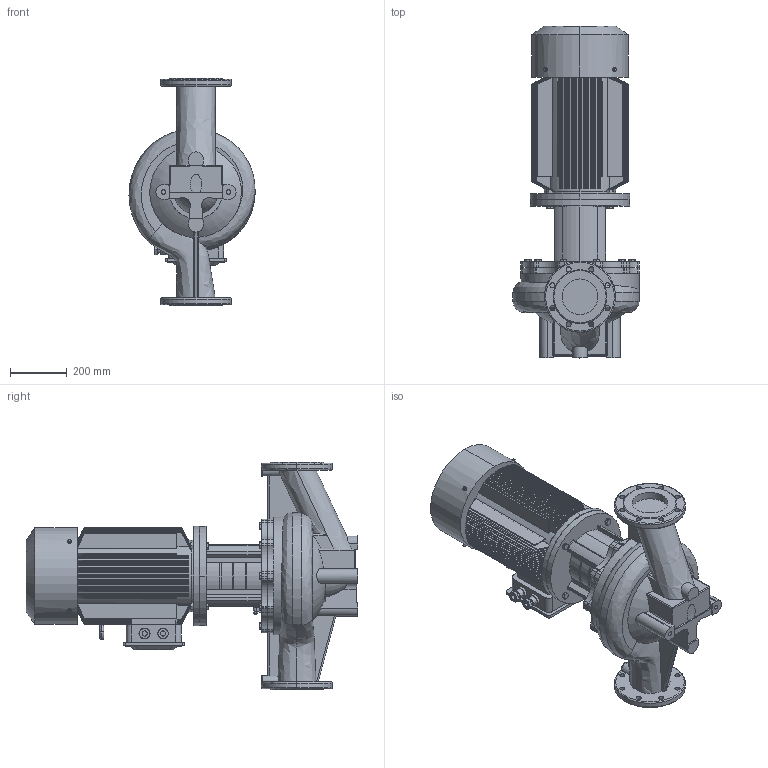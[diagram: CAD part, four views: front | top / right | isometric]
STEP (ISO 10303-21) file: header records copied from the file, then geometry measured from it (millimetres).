
FILE_DESCRIPTION (( 'STEP AP203' ), '1' );
FILE_NAME ('TD125-22G／4.STEP', '2026-09-07T02:48:52', ( '' ), ( '' ), 'SwSTEP 2.0', 'SolidWorks 2020', '' );
FILE_SCHEMA (( 'CONFIG_CONTROL_DESIGN' ));
Length unit declared in the file: millimetre
Products named in the file (1): TD125-22Gㄞ4
Bounding box: 444.24 x 1169 x 800 mm (x, y, z)
Volume: 94721652 mm3; surface area: 4786405.6 mm2
Topology: 1 solids, 9 shells, 1595 faces, 4115 edges, 2603 vertices
Faces by surface type: plane 680, cylinder 440, cone 386, torus 46, bspline 41, sphere 2
Entity records: 70829 total; most frequent: CARTESIAN_POINT 32869, ORIENTED_EDGE 8222, DIRECTION 7604, EDGE_CURVE 4111, AXIS2_PLACEMENT_3D 3003, VERTEX_POINT 2603, EDGE_LOOP 1728, VECTOR 1598
